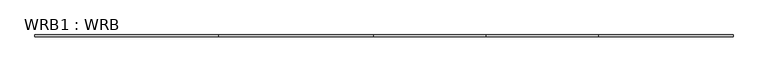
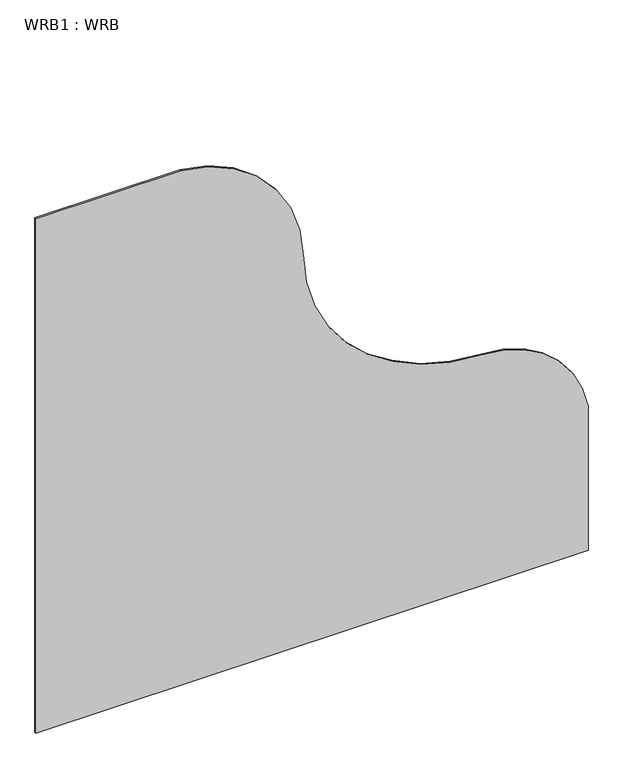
"""IFC4 building model written with IfcOpenShell, lengths in millimetres: proxy geometry, WRB1 : WRB."""

from ifc_helpers import new_model, si_unit, point, frame, frame_2d, origin, place, context, project, spatial, polyline, circle_curve, trimmed, segment, composite_curve, outline, extrude, source, transform, mapped, element, save


def wrb1_wrb_f76ab0a9(model_context):
    return source(origin(), model_context, "Body", "SweptSolid", [
        extrude(outline(composite_curve([segment(polyline([(-19.05, 3323.247143), (-19.05, 4580.547143), (326.9760682, 4580.547143)]), True, "CONTINUOUS"), segment(trimmed(circle_curve(frame_2d((286.9857554, 4335.2368291)), 248.5485369), [point((326.9760682, 4580.547143))], [point((535.510358, 4338.6860471))], False, "CARTESIAN"), True, "CONTINUOUS"), segment(trimmed(circle_curve(frame_2d((948.5891228, 4344.419076)), 413.1185466), [point((535.510358, 4338.6860471))], [point((591.8706469, 4136.047143))], True, "CARTESIAN"), True, "CONTINUOUS"), segment(trimmed(circle_curve(frame_2d((925.1337293, 4306.8093528)), 374.4649709), [point((591.8706469, 4136.047143))], [point((918.4023164, 3932.404889))], True, "CARTESIAN"), True, "CONTINUOUS"), segment(trimmed(circle_curve(frame_2d((912.871688, 3624.78864)), 307.6659626), [point((918.4023164, 3932.404889))], [point((1219.2, 3653.447143))], False, "CARTESIAN"), True, "CONTINUOUS"), segment(polyline([(1219.2, 3653.447143), (1219.2, 3323.247143), (-19.05, 3323.247143)]), True, "CONTINUOUS")], self_intersect=False)), frame((0.0, 2741.9015644, 0.0), z_axis=(0.0, 1.0, 0.0), x_axis=(0.0, 0.0, 1.0)), (0.0, 0.0, 1.0), 3.175),
    ])


if __name__ == "__main__":
    model = new_model("IFC4")
    model_context = context("Model", 3, world=origin())
    ifc_project = project(units=[si_unit("LENGTHUNIT", "METRE", prefix="MILLI")], contexts=[model_context])
    site = spatial("IfcSite", under=ifc_project)
    building = spatial("IfcBuilding", under=site)
    placement = place(None, origin())
    wrb1_wrb_shape = wrb1_wrb_f76ab0a9(model_context)
    element("IfcBuildingElementProxy", 1, Name="WRB1 : WRB", ObjectType="WRB1 : WRB", at=placement, inside=building, context=model_context, shape_type="MappedRepresentation", body=[
        mapped(wrb1_wrb_shape, transform((0.0, 0.0, 0.0), x_axis=(1.0, 0.0, 0.0), y_axis=(0.0, 1.0, 0.0), z_axis=(0.0, 0.0, 1.0))),
    ])
    save(model, "model.ifc")
